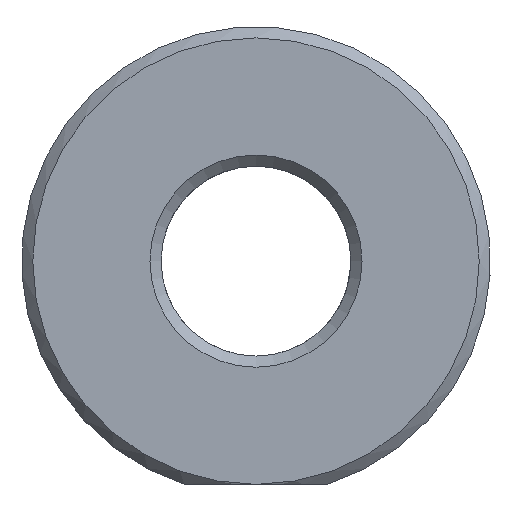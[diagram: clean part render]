
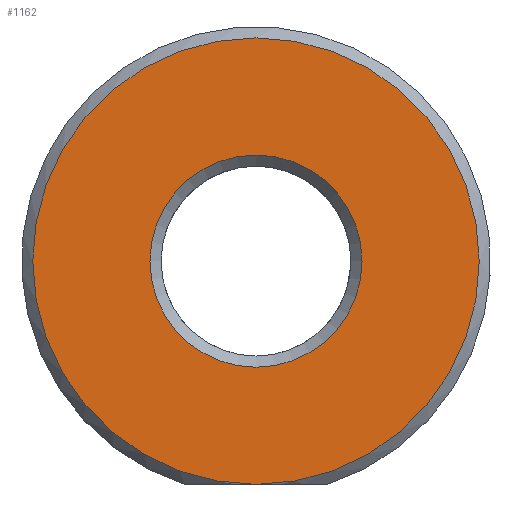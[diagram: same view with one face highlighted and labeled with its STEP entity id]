
A CAD part, left-side view. The second image highlights one B-rep face of the part: STEP entity #1162.
In plain terms, the highlighted planar face has unit normal (-1, 0, 0).
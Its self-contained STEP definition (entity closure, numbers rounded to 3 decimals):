
#1090=CARTESIAN_POINT('',(-18.0,0.,9.5));
#1091=VERTEX_POINT('',#1090);
#1092=CARTESIAN_POINT('',(-18.0,0.0,0.0));
#1093=DIRECTION('',(-1.0,0.0,0.0));
#1094=DIRECTION('',(0.0,0.0,-1.0));
#1095=AXIS2_PLACEMENT_3D('',#1092,#1093,#1094);
#1096=CIRCLE('',#1095,9.5);
#1097=EDGE_CURVE('',#1091,#1091,#1096,.T.);
#1143=CARTESIAN_POINT('',(-18.0,0.0,0.0));
#1144=DIRECTION('',(-1.0,0.0,0.0));
#1145=DIRECTION('',(0.0,0.0,1.0));
#1146=AXIS2_PLACEMENT_3D('',#1143,#1144,#1145);
#1147=PLANE('',#1146);
#1148=CARTESIAN_POINT('',(-18.0,0.0,-20.0));
#1149=VERTEX_POINT('',#1148);
#1150=CARTESIAN_POINT('',(-18.0,0.0,0.0));
#1151=DIRECTION('',(1.0,0.0,0.0));
#1152=DIRECTION('',(0.0,-1.0,0.0));
#1153=AXIS2_PLACEMENT_3D('',#1150,#1151,#1152);
#1154=CIRCLE('',#1153,20.0);
#1155=EDGE_CURVE('',#1149,#1149,#1154,.T.);
#1156=ORIENTED_EDGE('',*,*,#1155,.F.);
#1157=EDGE_LOOP('',(#1156));
#1158=FACE_OUTER_BOUND('',#1157,.T.);
#1159=ORIENTED_EDGE('',*,*,#1097,.F.);
#1160=EDGE_LOOP('',(#1159));
#1161=FACE_BOUND('',#1160,.T.);
#1162=ADVANCED_FACE('',(#1158,#1161),#1147,.T.);
